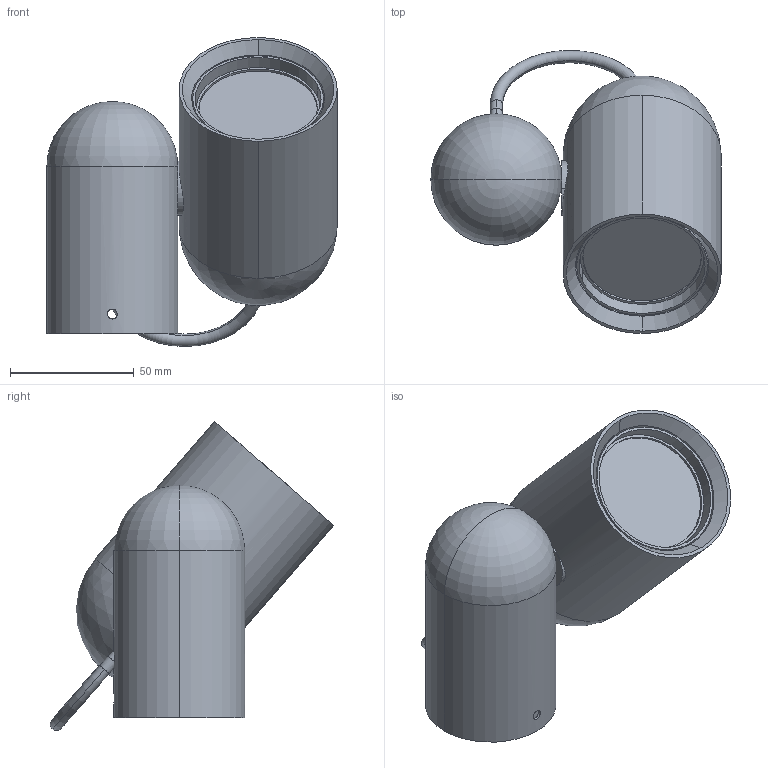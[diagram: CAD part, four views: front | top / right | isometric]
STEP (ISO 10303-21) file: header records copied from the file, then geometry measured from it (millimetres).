
FILE_DESCRIPTION (( 'STEP AP214' ), '1' );
FILE_NAME ('3D_ONFA_APLIQUE.STEP', '2024-03-27T14:59:18', ( '' ), ( '' ), 'SwSTEP 2.0', 'SolidWorks 2016', '' );
FILE_SCHEMA (( 'AUTOMOTIVE_DESIGN' ));
Length unit declared in the file: millimetre
Products named in the file (13): CASQUILLO; CASQUILLO FA; SOPORTE APLIQUE CASQUILLO; 3D_ONFA_APLIQUE; CABLE APLIQUE PEQUEÑO ONFA; BOMBILLA; IMAN FA; ENSAMBLAJE BOMBILLA ONFA; PRENSACABLES_2; SOPORTE METALICA ONFA APLIQUE PEQUEÑO; TORNILLO_PRENSACABLES; FUNDA MADERA CASQUILLO FA; PRENSACABLES_1
Assembly tree (12 placements, depth 3):
  3D_ONFA_APLIQUE
    SOPORTE APLIQUE CASQUILLO
    IMAN FA
    ENSAMBLAJE BOMBILLA ONFA
      BOMBILLA
      CASQUILLO
      PRENSACABLES_1
      PRENSACABLES_2
      TORNILLO_PRENSACABLES
    CASQUILLO FA
    FUNDA MADERA CASQUILLO FA
    CABLE APLIQUE PEQUEÑO ONFA
    SOPORTE METALICA ONFA APLIQUE PEQUEÑO
Bounding box: 117.5 x 114.76 x 125.03 mm (x, y, z)
Volume: 184658 mm3; surface area: 123494.8 mm2
Topology: 11 solids, 11 shells, 219 faces, 538 edges, 337 vertices
Faces by surface type: cylinder 100, plane 68, torus 22, cone 21, sphere 8
Entity records: 7608 total; most frequent: CARTESIAN_POINT 1724, DIRECTION 1245, ORIENTED_EDGE 1044, EDGE_CURVE 522, AXIS2_PLACEMENT_3D 514, VERTEX_POINT 333, CIRCLE 279, EDGE_LOOP 261
